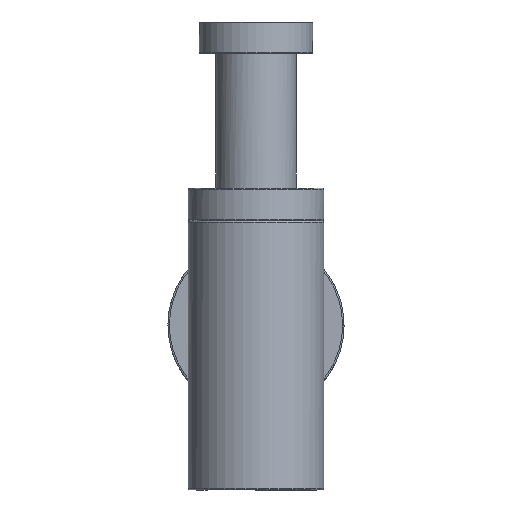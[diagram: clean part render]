
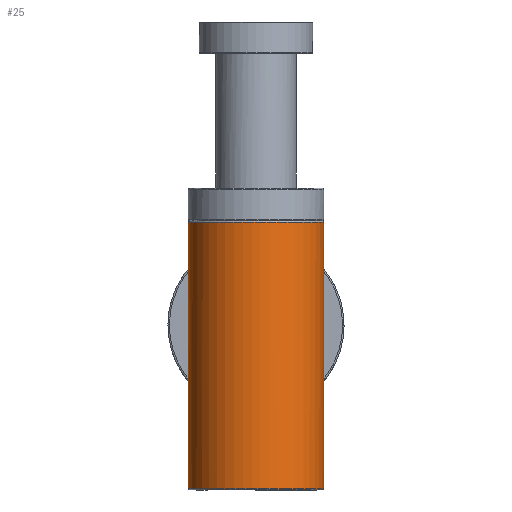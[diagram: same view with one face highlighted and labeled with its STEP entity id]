
A CAD part, front view. The second image highlights one B-rep face of the part: STEP entity #25.
In plain terms, the highlighted cylindrical face has radius 27 mm (diameter 54 mm), a partial arc.
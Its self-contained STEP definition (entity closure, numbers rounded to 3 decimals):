
#25=ADVANCED_FACE('',(#66),#545,.T.);
#66=FACE_OUTER_BOUND('',#109,.T.);
#109=EDGE_LOOP('',(#169,#170,#171,#172));
#169=ORIENTED_EDGE('',*,*,#321,.T.);
#170=ORIENTED_EDGE('',*,*,#317,.F.);
#171=ORIENTED_EDGE('',*,*,#322,.T.);
#172=ORIENTED_EDGE('',*,*,#315,.F.);
#315=EDGE_CURVE('',#477,#478,#397,.T.);
#317=EDGE_CURVE('',#479,#480,#399,.T.);
#321=EDGE_CURVE('',#477,#480,#401,.T.);
#322=EDGE_CURVE('',#479,#478,#402,.T.);
#397=(
BOUNDED_CURVE()
B_SPLINE_CURVE(1,(#1007,#1008),.UNSPECIFIED.,.F.,.F.)
B_SPLINE_CURVE_WITH_KNOTS((2,2),(17.193,125.508),
 .UNSPECIFIED.)
CURVE()
GEOMETRIC_REPRESENTATION_ITEM()
RATIONAL_B_SPLINE_CURVE((1.,1.))
REPRESENTATION_ITEM('')
);
#399=(
BOUNDED_CURVE()
B_SPLINE_CURVE(1,(#1014,#1015),.UNSPECIFIED.,.F.,.F.)
B_SPLINE_CURVE_WITH_KNOTS((2,2),(-125.508,-17.193),
 .UNSPECIFIED.)
CURVE()
GEOMETRIC_REPRESENTATION_ITEM()
RATIONAL_B_SPLINE_CURVE((1.,1.))
REPRESENTATION_ITEM('')
);
#401=(
BOUNDED_CURVE()
B_SPLINE_CURVE(2,(#1113,#1114,#1115,#1116,#1117),.UNSPECIFIED.,.F.,.F.)
B_SPLINE_CURVE_WITH_KNOTS((3,2,3),(84.823,127.235,169.646),
 .UNSPECIFIED.)
CURVE()
GEOMETRIC_REPRESENTATION_ITEM()
RATIONAL_B_SPLINE_CURVE((1.,0.707,1.,0.707,1.))
REPRESENTATION_ITEM('')
);
#402=(
BOUNDED_CURVE()
B_SPLINE_CURVE(2,(#1118,#1119,#1120,#1121,#1122),.UNSPECIFIED.,.F.,.F.)
B_SPLINE_CURVE_WITH_KNOTS((3,2,3),(-169.646,-127.235,
-84.823),.UNSPECIFIED.)
CURVE()
GEOMETRIC_REPRESENTATION_ITEM()
RATIONAL_B_SPLINE_CURVE((1.,0.707,1.,0.707,1.))
REPRESENTATION_ITEM('')
);
#477=VERTEX_POINT('',#951);
#478=VERTEX_POINT('',#952);
#479=VERTEX_POINT('',#953);
#480=VERTEX_POINT('',#954);
#545=CYLINDRICAL_SURFACE('',#652,27.);
#652=AXIS2_PLACEMENT_3D('',#712,#682,$);
#682=DIRECTION('',(0.,0.,1.));
#712=CARTESIAN_POINT('',(0.,-200.041,86.051));
#951=CARTESIAN_POINT('',(-27.,-200.041,33.051));
#952=CARTESIAN_POINT('',(-27.,-200.041,139.051));
#953=CARTESIAN_POINT('',(27.,-200.041,139.051));
#954=CARTESIAN_POINT('',(27.,-200.041,33.051));
#1007=CARTESIAN_POINT('',(-27.,-200.041,33.051));
#1008=CARTESIAN_POINT('',(-27.,-200.041,139.051));
#1014=CARTESIAN_POINT('',(27.,-200.041,139.051));
#1015=CARTESIAN_POINT('',(27.,-200.041,33.051));
#1113=CARTESIAN_POINT('',(-27.,-200.041,33.051));
#1114=CARTESIAN_POINT('',(-27.,-227.041,33.051));
#1115=CARTESIAN_POINT('',(0.,-227.041,33.051));
#1116=CARTESIAN_POINT('',(27.,-227.041,33.051));
#1117=CARTESIAN_POINT('',(27.,-200.041,33.051));
#1118=CARTESIAN_POINT('',(27.,-200.041,139.051));
#1119=CARTESIAN_POINT('',(27.,-227.041,139.051));
#1120=CARTESIAN_POINT('',(0.,-227.041,139.051));
#1121=CARTESIAN_POINT('',(-27.,-227.041,139.051));
#1122=CARTESIAN_POINT('',(-27.,-200.041,139.051));
